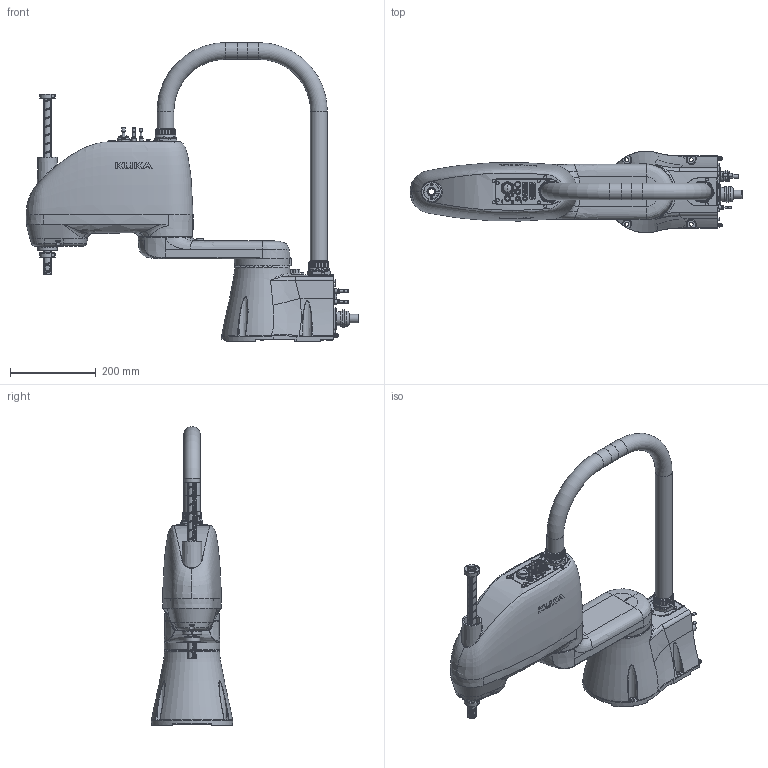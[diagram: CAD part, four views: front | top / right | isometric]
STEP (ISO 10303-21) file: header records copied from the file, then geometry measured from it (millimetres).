
FILE_DESCRIPTION(/* description */ (''),/* implementation_level */ '2;1');
FILE_NAME(/* name */ 'KR6 R500 Z200 CS.stp',/* time_stamp */ '2021-06-03T14:50:08+08:00',/* author */ (''),/* organization */ (''),/* preprocessor_version */ 'ST-DEVELOPER v16.7',/* originating_system */ 'SIEMENS PLM Software NX 12.0',/* authorisation */ '');
FILE_SCHEMA (('AUTOMOTIVE_DESIGN { 1 0 10303 214 3 1 1 1 }'));
Length unit declared in the file: millimetre
Products named in the file (7): 394.088-10.000.06-01umm000~00; 394.088-10.000.05-01umm000~00; 394.088-10.000.04-02umm000~00; 394.088-10.000.03-02umm000~00; 394.088-10.000.02-03umm000~00; 394.088-10.000.01-02umm000~00; 394.088-10.003.00-00umm000~00
Assembly tree (6 placements, depth 2):
  394.088-10.003.00-00umm000~00
    394.088-10.000.01-02umm000~00
    394.088-10.000.02-03umm000~00
    394.088-10.000.03-02umm000~00
    394.088-10.000.04-02umm000~00
    394.088-10.000.05-01umm000~00
    394.088-10.000.06-01umm000~00
Bounding box: 773.2 x 189.73 x 696.1 mm (x, y, z)
Volume: 11086046.4 mm3; surface area: 867086.2 mm2
Topology: 24 solids, 53 shells, 4347 faces, 11032 edges, 7017 vertices
Faces by surface type: plane 1562, cylinder 1369, cone 601, bspline 371, torus 223, extrusion 208, sphere 12, revolution 1
Full cylindrical faces by diameter (mm): 1.1 x15, 2 x15, 2.8 x1, 2.84 x7, 3 x4, 3.3 x8, 4 x38, 4.3 x6, 4.5 x10, 4.8 x4, 5 x8, 6 x9, 6.8 x4, 7 x37, 7.7 x4, 7.9 x4, 8 x4, 9 x12, 9.7 x4, 9.9 x4, 10 x1, 11 x4, 14 x1, 17.5 x1, 20 x2, 22.5 x1, 23.8 x2, 30 x4, 32 x1, 35 x3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
Entity records: 446889 total; most frequent: CARTESIAN_POINT 332393, ORIENTED_EDGE 21038, DIRECTION 17479, EDGE_CURVE 10519, VERTEX_POINT 6868, AXIS2_PLACEMENT_3D 6828, EDGE_LOOP 5089, ADVANCED_FACE 4339
